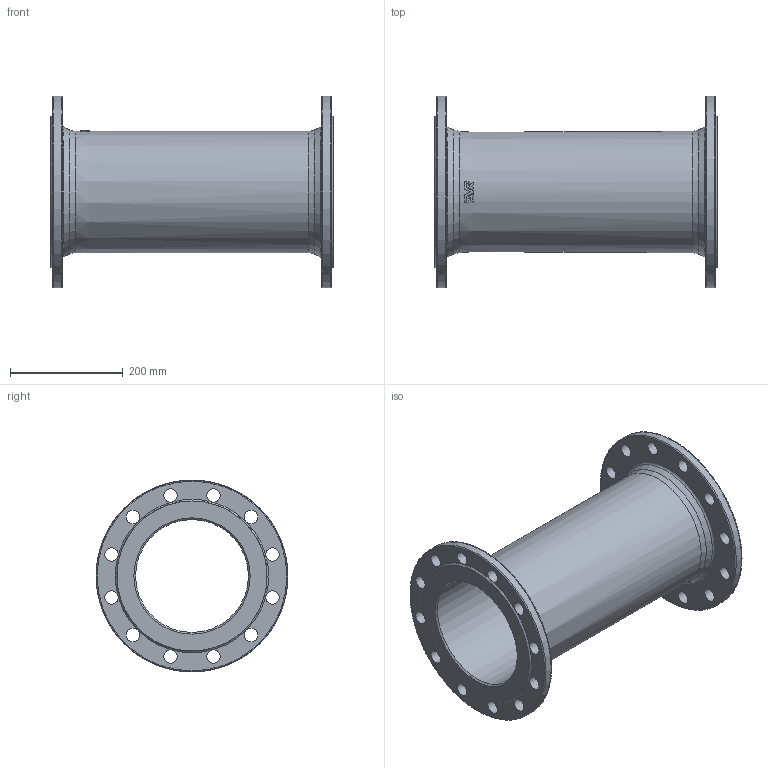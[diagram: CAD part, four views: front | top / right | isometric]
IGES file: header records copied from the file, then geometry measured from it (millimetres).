
Start section: SolidWorks IGES file using analytic representation for surfaces
Global section: file name: \\avksan2\techshare\PBM outline export from Enovia\O_712_4810_DN200_1X_REV01.igs; native system: SolidWorks 2019; preprocessor: SolidWorks 2019; author: pbm; date: 211201.113804; units: millimetre
Bounding box: 500 x 340 x 340 mm (x, y, z)
Surface area: 885073.4 mm2 (no closed solid volume)
Topology: 0 solids, 0 shells, 89 faces, 602 edges, 559 vertices
Faces by surface type: revolution 46, bspline 43
